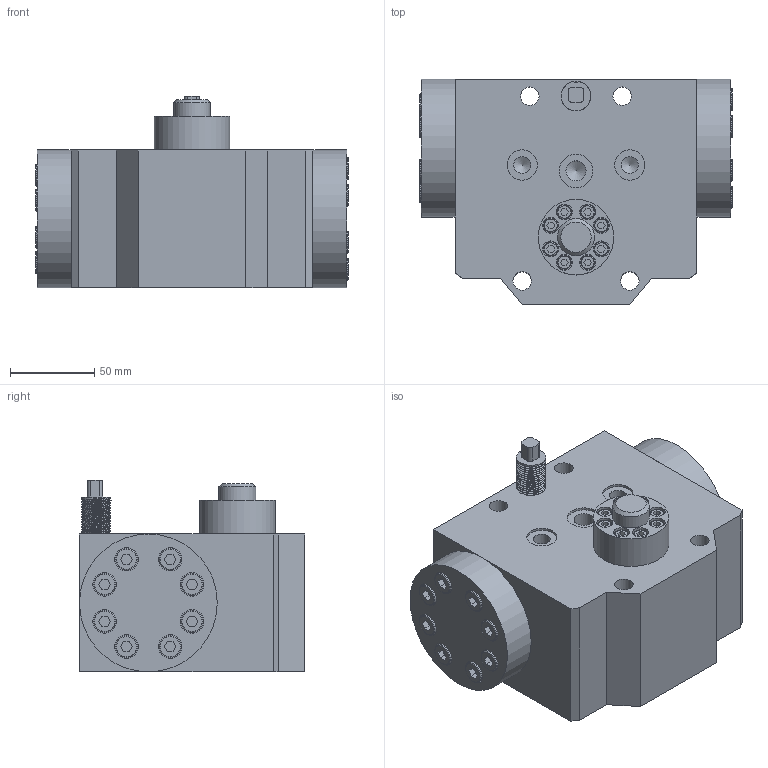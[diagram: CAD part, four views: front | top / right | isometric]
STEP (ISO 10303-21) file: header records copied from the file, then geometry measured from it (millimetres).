
FILE_DESCRIPTION(/* description */ (''),/* implementation_level */ '2;1');
FILE_NAME(/* name */ '11-1.stp',/* time_stamp */ '2023-05-03T14:13:55+08:00',/* author */ (''),/* organization */ (''),/* preprocessor_version */ 'ST-DEVELOPER v16.7',/* originating_system */ 'SIEMENS PLM Software NX 12.0',/* authorisation */ '');
FILE_SCHEMA (('AUTOMOTIVE_DESIGN { 1 0 10303 214 3 1 1 1 }'));
Length unit declared in the file: millimetre
Products named in the file (1): 11-1
Bounding box: 186 x 134 x 114 mm (x, y, z)
Volume: 1697650.5 mm3; surface area: 193735.1 mm2
Topology: 31 solids, 31 shells, 659 faces, 1615 edges, 1069 vertices
Faces by surface type: plane 392, cylinder 189, cone 52, torus 24, bspline 2
Full cylindrical faces by diameter (mm): 4.2 x8, 5 x8, 5.5 x8, 6.8 x16, 8 x16, 8.5 x8, 9 x16, 9.5 x8, 10 x2, 11 x4, 12 x1, 13 x16, 14 x16, 18 x2, 20 x1, 22 x2, 45 x1, 82 x2
Entity records: 20635 total; most frequent: CARTESIAN_POINT 5953, DIRECTION 3033, ORIENTED_EDGE 2504, EDGE_CURVE 1252, AXIS2_PLACEMENT_3D 1132, EDGE_LOOP 1051, VERTEX_POINT 968, LINE 769
